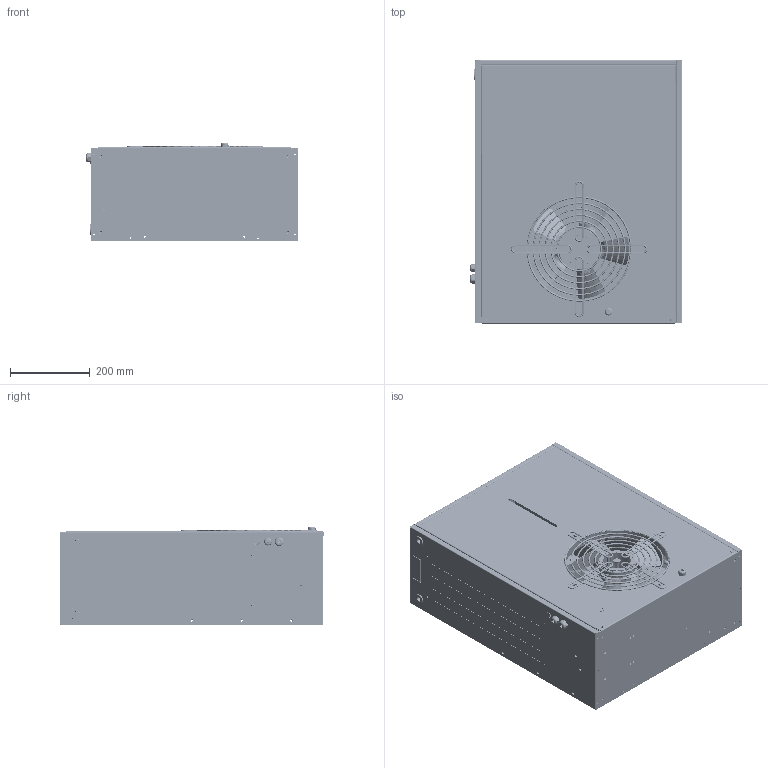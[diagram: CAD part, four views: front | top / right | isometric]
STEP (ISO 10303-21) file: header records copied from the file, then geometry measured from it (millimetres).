
FILE_DESCRIPTION (( 'STEP AP203' ), '1' );
FILE_NAME ('40-MI-00079.STEP', '2026-01-26T11:22:53', ( '' ), ( '' ), 'SwSTEP 2.0', 'SolidWorks 2023', '' );
FILE_SCHEMA (( 'CONFIG_CONTROL_DESIGN' ));
Length unit declared in the file: millimetre
Products named in the file (34): pg11 part1_Socket-1.209.1102.15-Nelco; 40-MI-00079; GRIGLIA YWF250; CO-AW-00009_002G; VR-AW-00031_001; T; CO-AW-00008_002; CO-AW-00009_001A; CO-AW-00009_002; PG 9_Cable-Gland-1.209.0900.14-Nelco; CO-AW-00009_001D; PG 9_2_Nut-PA-Grey-19-19-22-Nelco; VR-AW-00030_001_INGRESSI DISTANTI CON TERMO IN MEZZO_VER_B; 4D300-021-01_AF0; CR-AW-00019_002; VR-AW-00028_001; pg11 part2_Nut-PA-Blue-22-22-25-Nelco; 4D300-022_AF0; VE-W1-00018; 4D300-021_AS; CO-AW-00009_001B; CO-AW-00009_001E; VR-AW-00029_000; 300_; CO-AW-00009_001C; ZI-PA-00008_002; 4D300-021-02_AF0; 50-AW-00019_000_TERMOREGOLATORE SPOSTATO CON ATTACCHI; 4D300-021-03_AF0; pg11_Cable-Gland-1.209.1102.15-Nelco; PG 9_1_Socket-1.209.0900.14-Nelco; CO-AW-00009_002F; Parte2
Assembly tree (131 placements, depth 4):
  40-MI-00079
    50-AW-00019_000_TERMOREGOLATORE SPOSTATO CON ATTACCHI
      VR-AW-00031_001
      VR-AW-00028_001
      VR-AW-00029_000
      CR-AW-00019_002
      VR-AW-00030_001_INGRESSI DISTANTI CON TERMO IN MEZZO_VER_B
    CO-AW-00009_002
      CO-AW-00009_001A
      CO-AW-00009_001B
      CO-AW-00009_001C
      CO-AW-00009_001D  x24
      CO-AW-00009_001E  x23
      CO-AW-00009_002G
      CO-AW-00009_002F
      T
      Parte2
    VE-W1-00018
      4D300-021_AS
        4D300-021-02_AF0
        4D300-021-01_AF0
        4D300-021-03_AF0
        4D300-022_AF0
        300_
      GRIGLIA YWF250
    PG 9_Cable-Gland-1.209.0900.14-Nelco  x2
      PG 9_1_Socket-1.209.0900.14-Nelco
      PG 9_2_Nut-PA-Grey-19-19-22-Nelco
    pg11_Cable-Gland-1.209.1102.15-Nelco
      pg11 part1_Socket-1.209.1102.15-Nelco
      pg11 part2_Nut-PA-Blue-22-22-25-Nelco
    CO-AW-00008_002
      CO-AW-00009_001A
      CO-AW-00009_001B
      CO-AW-00009_001C
      CO-AW-00009_001D  x24
      CO-AW-00009_001E  x23
      CO-AW-00009_002G
      CO-AW-00009_002F
    ZI-PA-00008_002  x2
Bounding box: 532.1 x 661 x 248.1 mm (x, y, z)
Volume: 2706212.9 mm3; surface area: 5004140.4 mm2
Topology: 155 solids, 156 shells, 4427 faces, 10818 edges, 6815 vertices
Faces by surface type: plane 1916, cylinder 1579, torus 426, cone 421, bspline 85
Entity records: 117026 total; most frequent: CARTESIAN_POINT 32105, ORIENTED_EDGE 16296, DIRECTION 16258, EDGE_CURVE 8150, AXIS2_PLACEMENT_3D 5757, VERTEX_POINT 5117, LINE 4744, VECTOR 4744
